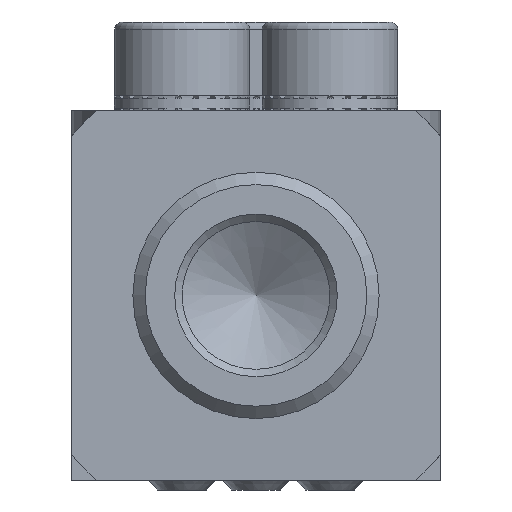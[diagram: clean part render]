
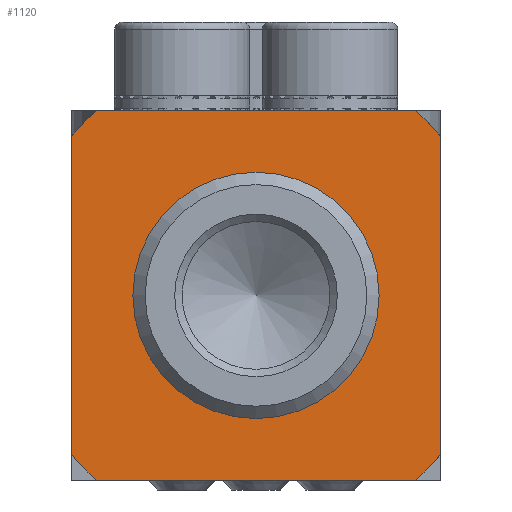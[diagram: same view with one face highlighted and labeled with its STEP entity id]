
A CAD part, left-side view. The second image highlights one B-rep face of the part: STEP entity #1120.
In plain terms, the highlighted planar face has unit normal (-1, 0, 0).
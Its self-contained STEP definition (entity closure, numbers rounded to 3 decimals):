
#1120=ADVANCED_FACE('',(#2008,#2009),#2010,.F.);
#2008=FACE_BOUND('',#2884,.T.);
#2009=FACE_OUTER_BOUND('',#2885,.T.);
#2010=PLANE('',#2886);
#2884=EDGE_LOOP('',(#5374));
#2885=EDGE_LOOP('',(#5375,#5376,#5377,#5378,#5379,#5380,#5381,#5382));
#2886=AXIS2_PLACEMENT_3D('',#5383,#5384,#5385);
#5374=ORIENTED_EDGE('',*,*,#6567,.T.);
#5375=ORIENTED_EDGE('',*,*,#6568,.F.);
#5376=ORIENTED_EDGE('',*,*,#6569,.T.);
#5377=ORIENTED_EDGE('',*,*,#6570,.F.);
#5378=ORIENTED_EDGE('',*,*,#6571,.T.);
#5379=ORIENTED_EDGE('',*,*,#6572,.T.);
#5380=ORIENTED_EDGE('',*,*,#6573,.T.);
#5381=ORIENTED_EDGE('',*,*,#6574,.T.);
#5382=ORIENTED_EDGE('',*,*,#6575,.T.);
#5383=CARTESIAN_POINT('',(0.0,-7.5,7.5));
#5384=DIRECTION('',(1.0,0.0,0.0));
#5385=DIRECTION('',(0.0,0.0,-1.0));
#6567=EDGE_CURVE('',#8100,#8100,#8101,.T.);
#6568=EDGE_CURVE('',#8102,#8103,#8104,.T.);
#6569=EDGE_CURVE('',#8102,#8105,#8106,.F.);
#6570=EDGE_CURVE('',#8107,#8105,#8108,.T.);
#6571=EDGE_CURVE('',#8107,#8109,#8110,.F.);
#6572=EDGE_CURVE('',#8109,#8111,#8112,.T.);
#6573=EDGE_CURVE('',#8111,#8113,#8114,.F.);
#6574=EDGE_CURVE('',#8113,#8115,#8116,.T.);
#6575=EDGE_CURVE('',#8115,#8103,#8117,.F.);
#8100=VERTEX_POINT('',#10147);
#8101=CIRCLE('',#10148,5.0);
#8102=VERTEX_POINT('',#10149);
#8103=VERTEX_POINT('',#10150);
#8104=LINE('',#10151,#10152);
#8105=VERTEX_POINT('',#10153);
#8106=CIRCLE('',#10154,9.9);
#8107=VERTEX_POINT('',#10155);
#8108=LINE('',#10156,#10157);
#8109=VERTEX_POINT('',#10158);
#8110=CIRCLE('',#10159,9.9);
#8111=VERTEX_POINT('',#10160);
#8112=LINE('',#10161,#10162);
#8113=VERTEX_POINT('',#10163);
#8114=CIRCLE('',#10164,9.9);
#8115=VERTEX_POINT('',#10165);
#8116=LINE('',#10166,#10167);
#8117=CIRCLE('',#10168,9.9);
#10147=CARTESIAN_POINT('',(0.0,0.0,-5.0));
#10148=AXIS2_PLACEMENT_3D('',#11494,#11495,#11496);
#10149=CARTESIAN_POINT('',(0.0,-6.462,-7.5));
#10150=CARTESIAN_POINT('',(0.0,6.462,-7.5));
#10151=CARTESIAN_POINT('',(0.0,-7.5,-7.5));
#10152=VECTOR('',#11497,1.0);
#10153=CARTESIAN_POINT('',(0.0,-7.5,-6.462));
#10154=AXIS2_PLACEMENT_3D('',#11498,#11499,#11500);
#10155=CARTESIAN_POINT('',(0.0,-7.5,6.462));
#10156=CARTESIAN_POINT('',(0.0,-7.5,7.5));
#10157=VECTOR('',#11501,1.0);
#10158=CARTESIAN_POINT('',(0.0,-6.462,7.5));
#10159=AXIS2_PLACEMENT_3D('',#11502,#11503,#11504);
#10160=CARTESIAN_POINT('',(0.0,6.462,7.5));
#10161=CARTESIAN_POINT('',(0.0,-7.5,7.5));
#10162=VECTOR('',#11505,1.0);
#10163=CARTESIAN_POINT('',(0.0,7.5,6.462));
#10164=AXIS2_PLACEMENT_3D('',#11506,#11507,#11508);
#10165=CARTESIAN_POINT('',(0.0,7.5,-6.462));
#10166=CARTESIAN_POINT('',(0.0,7.5,7.5));
#10167=VECTOR('',#11509,1.0);
#10168=AXIS2_PLACEMENT_3D('',#11510,#11511,#11512);
#11494=CARTESIAN_POINT('',(0.0,0.0,0.));
#11495=DIRECTION('',(1.0,0.0,0.0));
#11496=DIRECTION('',(0.0,0.0,-1.0));
#11497=DIRECTION('',(0.0,1.0,0.0));
#11498=CARTESIAN_POINT('',(0.0,0.,0.));
#11499=DIRECTION('',(1.0,0.0,0.0));
#11500=DIRECTION('',(0.0,0.0,-1.0));
#11501=DIRECTION('',(0.0,0.0,-1.0));
#11502=CARTESIAN_POINT('',(0.0,0.,0.));
#11503=DIRECTION('',(1.0,0.0,0.0));
#11504=DIRECTION('',(0.0,0.0,-1.0));
#11505=DIRECTION('',(0.0,1.0,0.0));
#11506=CARTESIAN_POINT('',(0.0,0.,0.));
#11507=DIRECTION('',(1.0,0.0,0.0));
#11508=DIRECTION('',(0.0,0.0,-1.0));
#11509=DIRECTION('',(0.0,0.0,-1.0));
#11510=CARTESIAN_POINT('',(0.0,0.,0.));
#11511=DIRECTION('',(1.0,0.0,0.0));
#11512=DIRECTION('',(0.0,0.0,-1.0));
